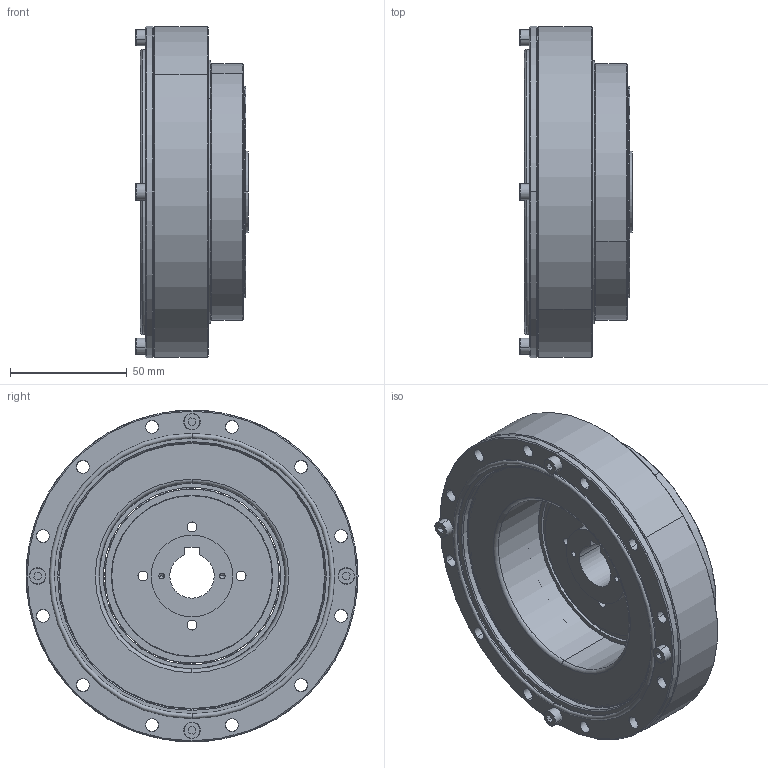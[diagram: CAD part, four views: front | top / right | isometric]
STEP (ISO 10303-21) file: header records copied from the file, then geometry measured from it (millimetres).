
FILE_DESCRIPTION (( 'STEP AP214' ), '1' );
FILE_NAME ('FHG-32-XXX-SJ.STEP', '2023-01-17T05:14:03', ( '微软用户' ), ( '微软中国' ), 'SwSTEP 2.0', 'SolidWorks 2016', '' );
FILE_SCHEMA (( 'AUTOMOTIVE_DESIGN' ));
Length unit declared in the file: millimetre
Products named in the file (1): FHG-32-XXX-SJ
Bounding box: 48 x 142 x 142 mm (x, y, z)
Volume: 345912.8 mm3; surface area: 182790.8 mm2
Topology: 45 solids, 45 shells, 768 faces, 1894 edges, 1175 vertices
Faces by surface type: cylinder 354, plane 170, cone 126, torus 72, sphere 46
Entity records: 30931 total; most frequent: DIRECTION 4315, CARTESIAN_POINT 3602, ORIENTED_EDGE 3454, AXIS2_PLACEMENT_3D 1819, EDGE_CURVE 1727, VERTEX_POINT 1106, CIRCLE 1050, EDGE_LOOP 955
